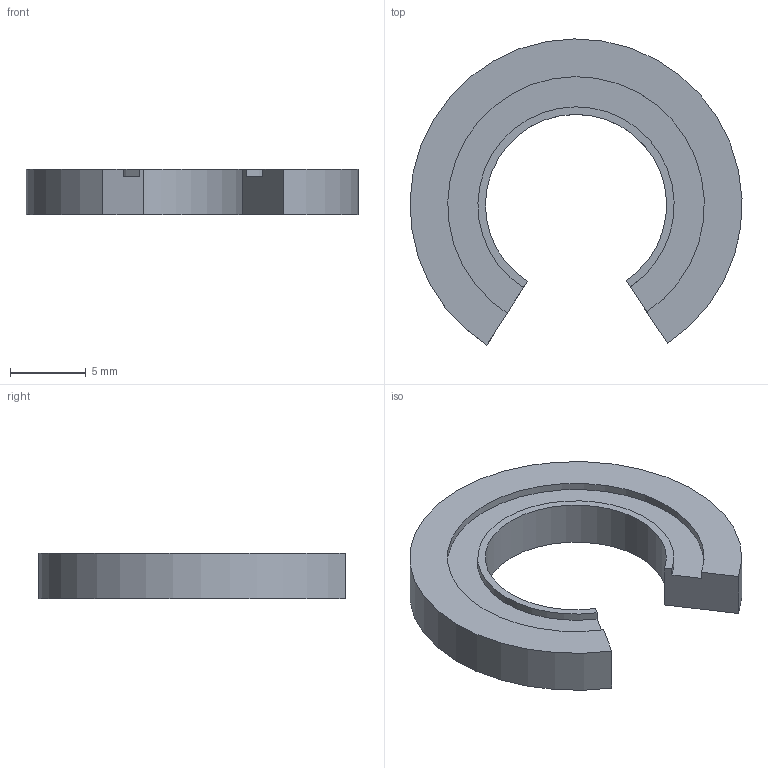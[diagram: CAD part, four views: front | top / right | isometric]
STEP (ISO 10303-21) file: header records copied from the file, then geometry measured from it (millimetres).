
FILE_DESCRIPTION(/* description */ (''),/* implementation_level */ '2;1');
FILE_NAME(/* name */ 'W:\WEBOVKY\Knecht\VD-OP\VD12-OP\VD-12OP.stp',/* time_stamp */ '2021-03-08T12:33:27+01:00',/* author */ ('mkorenek'),/* organization */ (''),/* preprocessor_version */ 'ST-DEVELOPER v18.1',/* originating_system */ 'Autodesk Inventor 2021',/* authorisation */ '');
FILE_SCHEMA (('AUTOMOTIVE_DESIGN { 1 0 10303 214 3 1 1 }'));
Length unit declared in the file: millimetre
Products named in the file (2): VD-12OP; VD12
Assembly tree (1 placements, depth 2):
  VD-12OP
    VD12
Bounding box: 21.99 x 20.28 x 3 mm (x, y, z)
Volume: 615.8 mm3; surface area: 764.3 mm2
Topology: 1 solids, 1 shells, 10 faces, 24 edges, 16 vertices
Faces by surface type: plane 6, cylinder 4
Entity records: 363 total; most frequent: DIRECTION 58, CARTESIAN_POINT 53, ORIENTED_EDGE 48, EDGE_CURVE 24, AXIS2_PLACEMENT_3D 21, LINE 16, VECTOR 16, VERTEX_POINT 16
